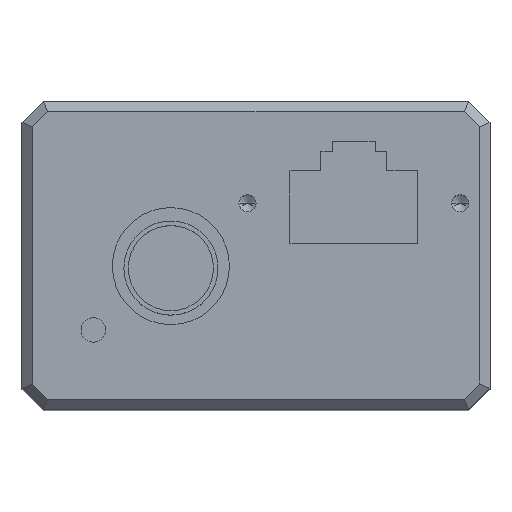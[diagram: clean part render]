
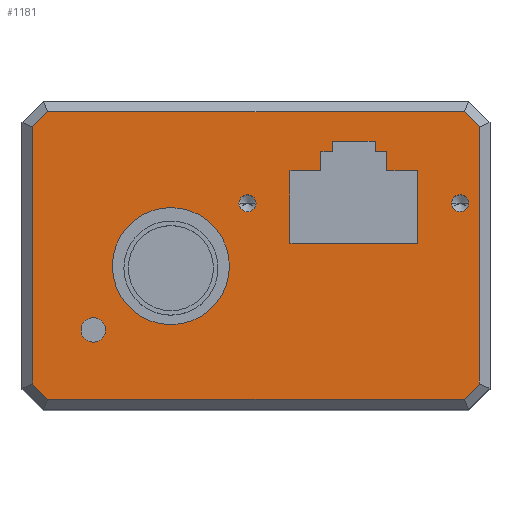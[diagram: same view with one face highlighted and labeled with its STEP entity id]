
A CAD part, top view. The second image highlights one B-rep face of the part: STEP entity #1181.
In plain terms, the highlighted planar face has unit normal (0, 0, 1).
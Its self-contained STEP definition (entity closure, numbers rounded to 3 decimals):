
#1=DIRECTION('',(-0.707,-0.707,0.));
#2=VECTOR('',#1,2.);
#3=CARTESIAN_POINT('',(21.,-12.086,60.));
#4=LINE('',#3,#2);
#5=DIRECTION('',(-0.707,0.707,0.));
#6=VECTOR('',#5,2.);
#7=CARTESIAN_POINT('',(-19.586,-13.5,60.));
#8=LINE('',#7,#6);
#9=DIRECTION('',(0.707,0.707,0.));
#10=VECTOR('',#9,2.);
#11=CARTESIAN_POINT('',(-21.,12.086,60.));
#12=LINE('',#11,#10);
#13=DIRECTION('',(0.707,-0.707,0.));
#14=VECTOR('',#13,2.);
#15=CARTESIAN_POINT('',(19.586,13.5,60.));
#16=LINE('',#15,#14);
#17=CARTESIAN_POINT('',(-0.8,4.9,60.));
#18=DIRECTION('',(0.,0.,1.));
#19=DIRECTION('',(-1.,0.,0.));
#20=AXIS2_PLACEMENT_3D('',#17,#18,#19);
#22=CARTESIAN_POINT('',(-0.8,4.9,60.));
#23=DIRECTION('',(0.,0.,1.));
#24=DIRECTION('',(1.,0.,0.));
#25=AXIS2_PLACEMENT_3D('',#22,#23,#24);
#27=CARTESIAN_POINT('',(19.2,4.9,60.));
#28=DIRECTION('',(0.,0.,1.));
#29=DIRECTION('',(-1.,0.,0.));
#30=AXIS2_PLACEMENT_3D('',#27,#28,#29);
#32=CARTESIAN_POINT('',(19.2,4.9,60.));
#33=DIRECTION('',(0.,0.,1.));
#34=DIRECTION('',(1.,0.,0.));
#35=AXIS2_PLACEMENT_3D('',#32,#33,#34);
#37=CARTESIAN_POINT('',(-15.3,-7.,60.));
#38=DIRECTION('',(0.,0.,1.));
#39=DIRECTION('',(1.,0.,0.));
#40=AXIS2_PLACEMENT_3D('',#37,#38,#39);
#42=CARTESIAN_POINT('',(-15.3,-7.,60.));
#43=DIRECTION('',(0.,0.,1.));
#44=DIRECTION('',(-1.,0.,0.));
#45=AXIS2_PLACEMENT_3D('',#42,#43,#44);
#47=CARTESIAN_POINT('',(-8.,-1.,60.));
#48=DIRECTION('',(0.,0.,1.));
#49=DIRECTION('',(1.,0.,0.));
#50=AXIS2_PLACEMENT_3D('',#47,#48,#49);
#52=CARTESIAN_POINT('',(-8.,-1.,60.));
#53=DIRECTION('',(0.,0.,1.));
#54=DIRECTION('',(-1.,0.,0.));
#55=AXIS2_PLACEMENT_3D('',#52,#53,#54);
#57=DIRECTION('',(0.,1.,0.));
#58=VECTOR('',#57,24.172);
#59=CARTESIAN_POINT('',(21.,-12.086,60.));
#60=LINE('',#59,#58);
#293=DIRECTION('',(-1.,0.,0.));
#294=VECTOR('',#293,39.172);
#295=CARTESIAN_POINT('',(19.586,13.5,60.));
#296=LINE('',#295,#294);
#313=DIRECTION('',(0.,-1.,0.));
#314=VECTOR('',#313,24.172);
#315=CARTESIAN_POINT('',(-21.,12.086,60.));
#316=LINE('',#315,#314);
#329=DIRECTION('',(1.,0.,0.));
#330=VECTOR('',#329,39.172);
#331=CARTESIAN_POINT('',(-19.586,-13.5,60.));
#332=LINE('',#331,#330);
#717=DIRECTION('',(1.,0.,0.));
#718=VECTOR('',#717,4.);
#719=CARTESIAN_POINT('',(7.196,10.75,60.));
#720=LINE('',#719,#718);
#733=DIRECTION('',(0.,-1.,0.));
#734=VECTOR('',#733,1.);
#735=CARTESIAN_POINT('',(11.196,10.75,60.));
#736=LINE('',#735,#734);
#745=DIRECTION('',(1.,0.,0.));
#746=VECTOR('',#745,1.1);
#747=CARTESIAN_POINT('',(11.196,9.75,60.));
#748=LINE('',#747,#746);
#757=DIRECTION('',(0.,-1.,0.));
#758=VECTOR('',#757,1.8);
#759=CARTESIAN_POINT('',(12.296,9.75,60.));
#760=LINE('',#759,#758);
#769=DIRECTION('',(1.,0.,0.));
#770=VECTOR('',#769,2.9);
#771=CARTESIAN_POINT('',(12.296,7.95,60.));
#772=LINE('',#771,#770);
#781=DIRECTION('',(0.,-1.,0.));
#782=VECTOR('',#781,6.8);
#783=CARTESIAN_POINT('',(15.196,7.95,60.));
#784=LINE('',#783,#782);
#793=DIRECTION('',(-1.,0.,0.));
#794=VECTOR('',#793,12.);
#795=CARTESIAN_POINT('',(15.196,1.15,60.));
#796=LINE('',#795,#794);
#805=DIRECTION('',(0.,1.,0.));
#806=VECTOR('',#805,6.8);
#807=CARTESIAN_POINT('',(3.196,1.15,60.));
#808=LINE('',#807,#806);
#817=DIRECTION('',(1.,0.,0.));
#818=VECTOR('',#817,2.9);
#819=CARTESIAN_POINT('',(3.196,7.95,60.));
#820=LINE('',#819,#818);
#829=DIRECTION('',(0.,1.,0.));
#830=VECTOR('',#829,1.8);
#831=CARTESIAN_POINT('',(6.096,7.95,60.));
#832=LINE('',#831,#830);
#841=DIRECTION('',(1.,0.,0.));
#842=VECTOR('',#841,1.1);
#843=CARTESIAN_POINT('',(6.096,9.75,60.));
#844=LINE('',#843,#842);
#853=DIRECTION('',(0.,1.,0.));
#854=VECTOR('',#853,1.);
#855=CARTESIAN_POINT('',(7.196,9.75,60.));
#856=LINE('',#855,#854);
#861=CARTESIAN_POINT('',(21.,-12.086,60.));
#862=CARTESIAN_POINT('',(21.,12.086,60.));
#863=VERTEX_POINT('',#861);
#864=VERTEX_POINT('',#862);
#865=CARTESIAN_POINT('',(19.586,-13.5,60.));
#866=VERTEX_POINT('',#865);
#867=CARTESIAN_POINT('',(-19.586,-13.5,60.));
#868=VERTEX_POINT('',#867);
#869=CARTESIAN_POINT('',(-21.,-12.086,60.));
#870=VERTEX_POINT('',#869);
#871=CARTESIAN_POINT('',(-21.,12.086,60.));
#872=VERTEX_POINT('',#871);
#873=CARTESIAN_POINT('',(-19.586,13.5,60.));
#874=VERTEX_POINT('',#873);
#875=CARTESIAN_POINT('',(19.586,13.5,60.));
#876=VERTEX_POINT('',#875);
#877=CARTESIAN_POINT('',(-1.6,4.9,60.));
#878=CARTESIAN_POINT('',(0.,4.9,60.));
#879=VERTEX_POINT('',#877);
#880=VERTEX_POINT('',#878);
#881=CARTESIAN_POINT('',(18.4,4.9,60.));
#882=CARTESIAN_POINT('',(20.,4.9,60.));
#883=VERTEX_POINT('',#881);
#884=VERTEX_POINT('',#882);
#885=CARTESIAN_POINT('',(-14.15,-7.,60.));
#886=CARTESIAN_POINT('',(-16.45,-7.,60.));
#887=VERTEX_POINT('',#885);
#888=VERTEX_POINT('',#886);
#889=CARTESIAN_POINT('',(-2.5,-1.,60.));
#890=CARTESIAN_POINT('',(-13.5,-1.,60.));
#891=VERTEX_POINT('',#889);
#892=VERTEX_POINT('',#890);
#893=CARTESIAN_POINT('',(7.196,10.75,60.));
#894=CARTESIAN_POINT('',(11.196,10.75,60.));
#895=VERTEX_POINT('',#893);
#896=VERTEX_POINT('',#894);
#897=CARTESIAN_POINT('',(7.196,9.75,60.));
#898=VERTEX_POINT('',#897);
#899=CARTESIAN_POINT('',(6.096,9.75,60.));
#900=VERTEX_POINT('',#899);
#901=CARTESIAN_POINT('',(6.096,7.95,60.));
#902=VERTEX_POINT('',#901);
#903=CARTESIAN_POINT('',(3.196,7.95,60.));
#904=VERTEX_POINT('',#903);
#905=CARTESIAN_POINT('',(3.196,1.15,60.));
#906=VERTEX_POINT('',#905);
#907=CARTESIAN_POINT('',(15.196,1.15,60.));
#908=VERTEX_POINT('',#907);
#909=CARTESIAN_POINT('',(15.196,7.95,60.));
#910=VERTEX_POINT('',#909);
#911=CARTESIAN_POINT('',(12.296,7.95,60.));
#912=VERTEX_POINT('',#911);
#913=CARTESIAN_POINT('',(12.296,9.75,60.));
#914=VERTEX_POINT('',#913);
#915=CARTESIAN_POINT('',(11.196,9.75,60.));
#916=VERTEX_POINT('',#915);
#1108=CARTESIAN_POINT('',(0.,0.,60.));
#1109=DIRECTION('',(0.,0.,1.));
#1110=DIRECTION('',(1.,0.,0.));
#1111=AXIS2_PLACEMENT_3D('',#1108,#1109,#1110);
#1112=PLANE('',#1111);
#1114=ORIENTED_EDGE('',*,*,#1113,.F.);
#1116=ORIENTED_EDGE('',*,*,#1115,.T.);
#1118=ORIENTED_EDGE('',*,*,#1117,.F.);
#1120=ORIENTED_EDGE('',*,*,#1119,.T.);
#1122=ORIENTED_EDGE('',*,*,#1121,.F.);
#1124=ORIENTED_EDGE('',*,*,#1123,.T.);
#1126=ORIENTED_EDGE('',*,*,#1125,.F.);
#1128=ORIENTED_EDGE('',*,*,#1127,.T.);
#1129=EDGE_LOOP('',(#1114,#1116,#1118,#1120,#1122,#1124,#1126,#1128));
#1130=FACE_OUTER_BOUND('',#1129,.F.);
#1132=ORIENTED_EDGE('',*,*,#1131,.T.);
#1134=ORIENTED_EDGE('',*,*,#1133,.T.);
#1135=EDGE_LOOP('',(#1132,#1134));
#1136=FACE_BOUND('',#1135,.F.);
#1138=ORIENTED_EDGE('',*,*,#1137,.T.);
#1140=ORIENTED_EDGE('',*,*,#1139,.T.);
#1141=EDGE_LOOP('',(#1138,#1140));
#1142=FACE_BOUND('',#1141,.F.);
#1144=ORIENTED_EDGE('',*,*,#1143,.T.);
#1146=ORIENTED_EDGE('',*,*,#1145,.T.);
#1147=EDGE_LOOP('',(#1144,#1146));
#1148=FACE_BOUND('',#1147,.F.);
#1150=ORIENTED_EDGE('',*,*,#1149,.T.);
#1152=ORIENTED_EDGE('',*,*,#1151,.T.);
#1153=EDGE_LOOP('',(#1150,#1152));
#1154=FACE_BOUND('',#1153,.F.);
#1156=ORIENTED_EDGE('',*,*,#1155,.F.);
#1158=ORIENTED_EDGE('',*,*,#1157,.F.);
#1160=ORIENTED_EDGE('',*,*,#1159,.F.);
#1162=ORIENTED_EDGE('',*,*,#1161,.F.);
#1164=ORIENTED_EDGE('',*,*,#1163,.F.);
#1166=ORIENTED_EDGE('',*,*,#1165,.F.);
#1168=ORIENTED_EDGE('',*,*,#1167,.F.);
#1170=ORIENTED_EDGE('',*,*,#1169,.F.);
#1172=ORIENTED_EDGE('',*,*,#1171,.F.);
#1174=ORIENTED_EDGE('',*,*,#1173,.F.);
#1176=ORIENTED_EDGE('',*,*,#1175,.F.);
#1178=ORIENTED_EDGE('',*,*,#1177,.F.);
#1179=EDGE_LOOP('',(#1156,#1158,#1160,#1162,#1164,#1166,#1168,#1170,#1172,#1174,
#1176,#1178));
#1180=FACE_BOUND('',#1179,.F.);
#1181=ADVANCED_FACE('',(#1130,#1136,#1142,#1148,#1154,#1180),#1112,.T.);
#21=CIRCLE('',#20,0.8);
#26=CIRCLE('',#25,0.8);
#31=CIRCLE('',#30,0.8);
#36=CIRCLE('',#35,0.8);
#41=CIRCLE('',#40,1.15);
#46=CIRCLE('',#45,1.15);
#51=CIRCLE('',#50,5.5);
#56=CIRCLE('',#55,5.5);
#1113=EDGE_CURVE('',#863,#864,#60,.T.);
#1115=EDGE_CURVE('',#863,#866,#4,.T.);
#1117=EDGE_CURVE('',#868,#866,#332,.T.);
#1119=EDGE_CURVE('',#868,#870,#8,.T.);
#1121=EDGE_CURVE('',#872,#870,#316,.T.);
#1123=EDGE_CURVE('',#872,#874,#12,.T.);
#1125=EDGE_CURVE('',#876,#874,#296,.T.);
#1127=EDGE_CURVE('',#876,#864,#16,.T.);
#1131=EDGE_CURVE('',#879,#880,#21,.T.);
#1133=EDGE_CURVE('',#880,#879,#26,.T.);
#1137=EDGE_CURVE('',#883,#884,#31,.T.);
#1139=EDGE_CURVE('',#884,#883,#36,.T.);
#1143=EDGE_CURVE('',#887,#888,#41,.T.);
#1145=EDGE_CURVE('',#888,#887,#46,.T.);
#1149=EDGE_CURVE('',#891,#892,#51,.T.);
#1151=EDGE_CURVE('',#892,#891,#56,.T.);
#1155=EDGE_CURVE('',#895,#896,#720,.T.);
#1157=EDGE_CURVE('',#898,#895,#856,.T.);
#1159=EDGE_CURVE('',#900,#898,#844,.T.);
#1161=EDGE_CURVE('',#902,#900,#832,.T.);
#1163=EDGE_CURVE('',#904,#902,#820,.T.);
#1165=EDGE_CURVE('',#906,#904,#808,.T.);
#1167=EDGE_CURVE('',#908,#906,#796,.T.);
#1169=EDGE_CURVE('',#910,#908,#784,.T.);
#1171=EDGE_CURVE('',#912,#910,#772,.T.);
#1173=EDGE_CURVE('',#914,#912,#760,.T.);
#1175=EDGE_CURVE('',#916,#914,#748,.T.);
#1177=EDGE_CURVE('',#896,#916,#736,.T.);
